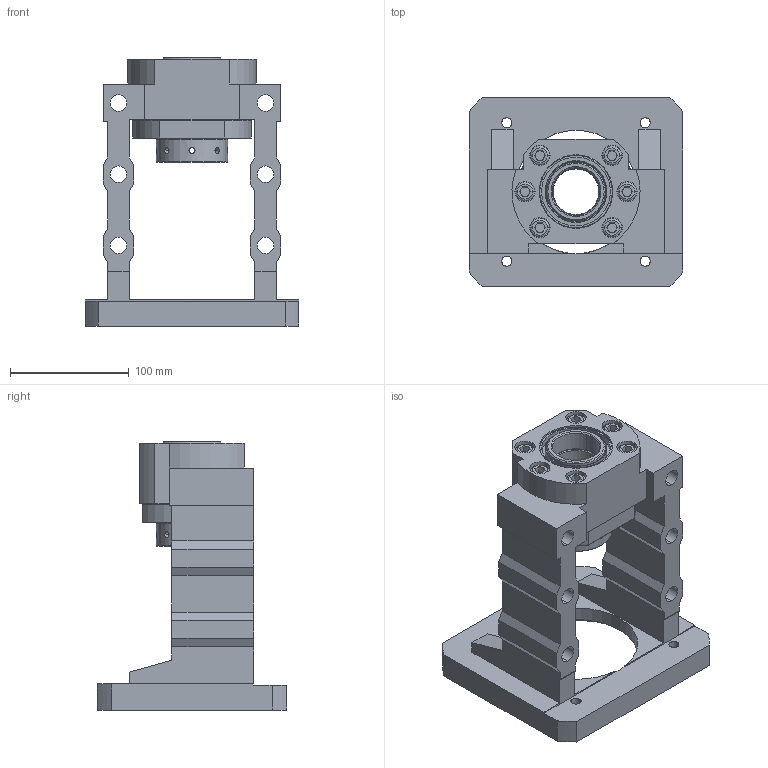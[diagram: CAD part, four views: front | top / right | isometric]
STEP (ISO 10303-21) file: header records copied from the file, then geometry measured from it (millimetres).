
FILE_DESCRIPTION (( 'STEP AP203' ), '1' );
FILE_NAME ('MBCS40-I²Õ¦X¥ó.STEP', '2024-09-03T06:28:38', ( '' ), ( '' ), 'SwSTEP 2.0', 'SolidWorks 2018', '' );
FILE_SCHEMA (( 'CONFIG_CONTROL_DESIGN' ));
Length unit declared in the file: millimetre
Products named in the file (1): MBCS40-I組合件
Bounding box: 180 x 160 x 226 mm (x, y, z)
Surface area: 226112.7 mm2 (no closed solid volume)
Topology: 0 solids, 21 shells, 340 faces, 965 edges, 639 vertices
Faces by surface type: plane 136, cylinder 114, cone 60, torus 18, bspline 12
Entity records: 26545 total; most frequent: CARTESIAN_POINT 17711, DIRECTION 1846, ORIENTED_EDGE 1702, EDGE_CURVE 957, AXIS2_PLACEMENT_3D 688, VERTEX_POINT 639, LINE 470, VECTOR 470
